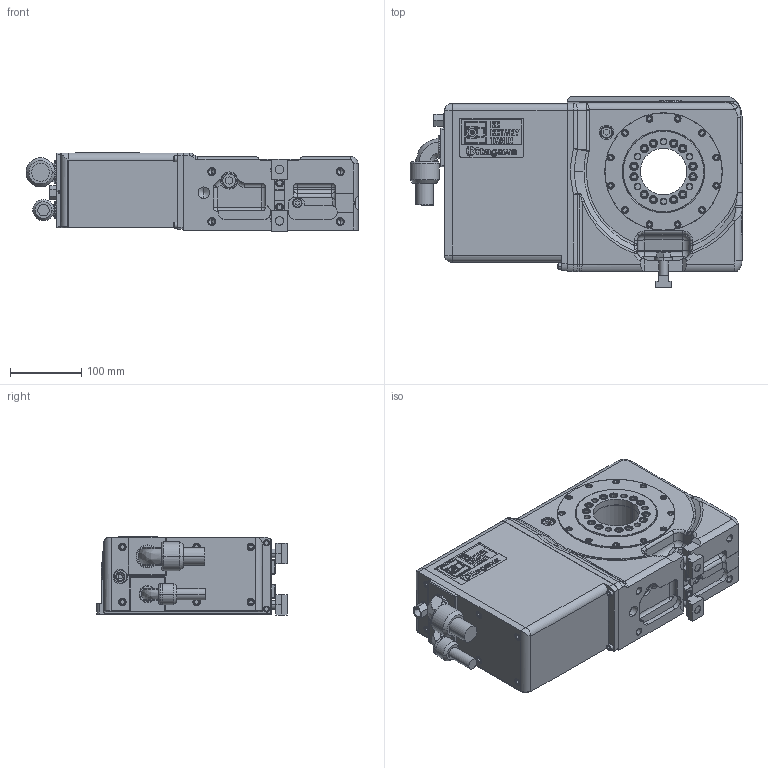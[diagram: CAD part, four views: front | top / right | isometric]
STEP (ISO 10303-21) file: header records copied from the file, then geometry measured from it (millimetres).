
FILE_DESCRIPTION (( 'STEP AP214' ), '1' );
FILE_NAME ('【掲載用】CK160付加軸左勝手.STEP', '2019-10-10T05:06:24', ( '' ), ( '' ), 'SwSTEP 2.0', 'SolidWorks 2017', '' );
FILE_SCHEMA (( 'AUTOMOTIVE_DESIGN' ));
Length unit declared in the file: millimetre
Products named in the file (23): ケーブルN29ZS1650; ケーブルN29ZS2554; SMC KQ2E06-02; モータケースカバー(61E8232700)CKR160LF02; モータケース(61E2715330)CKR160LF02; ガイドブロック(61M4198752); CK160L00僋儈僞僥(61E5013630); 僱乕儉僾儗乕僩丂MB160丂怴儘僑; CKR160　カバー; オイルゲージ 257; CKR160 チェックバルブ AKB01A-01S-×435; 僣僶僣僉僾儔僌GFO M20x1.5; シリンダ(61E8157592)CK160R00; テーブル(61E8145702)CKR160R00; クランプキミタテ(61E473251)CK160D1; ベアリングプッシュプレート(61E8145801)CKR160R00; Tスロットナット１４１２; ベース(61E1136614)CKR160L00_ﾃﾞﾌｫﾙﾄ<ﾏｼﾝ加工>; B パーカ　M12×40; ワッシャ １２(61M4266320)VQ100; 【掲載用】CK160付加軸左勝手; CK160LFホンタイ; キタガワシール
Assembly tree (24 placements, depth 4):
  【掲載用】CK160付加軸左勝手
    CK160LFホンタイ
      CK160L00僋儈僞僥(61E5013630)
        ベース(61E1136614)CKR160L00_ﾃﾞﾌｫﾙﾄ<ﾏｼﾝ加工>
        ベアリングプッシュプレート(61E8145801)CKR160R00
        テーブル(61E8145702)CKR160R00
        シリンダ(61E8157592)CK160R00
        僣僶僣僉僾儔僌GFO M20x1.5
        CKR160 チェックバルブ AKB01A-01S-×435
        オイルゲージ 257
        CKR160　カバー
        僱乕儉僾儗乕僩丂MB160丂怴儘僑
      ガイドブロック(61M4198752)  x2
      モータケース(61E2715330)CKR160LF02
      モータケースカバー(61E8232700)CKR160LF02
      SMC KQ2E06-02
      ケーブルN29ZS2554
      ケーブルN29ZS1650
      キタガワシール
    クランプキミタテ(61E473251)CK160D1  x2
      ワッシャ １２(61M4266320)VQ100
      B パーカ　M12×40
      Tスロットナット１４１２
Bounding box: 465.4 x 267 x 109.35 mm (x, y, z)
Volume: 9209614.3 mm3; surface area: 707780.7 mm2
Topology: 24 solids, 24 shells, 4061 faces, 10415 edges, 6773 vertices
Faces by surface type: plane 2852, cylinder 772, cone 303, bspline 85, torus 33, sphere 16
Entity records: 151802 total; most frequent: CARTESIAN_POINT 32831, ORIENTED_EDGE 20408, DIRECTION 19685, EDGE_CURVE 10204, LINE 8093, VECTOR 8093, VERTEX_POINT 6671, AXIS2_PLACEMENT_3D 5796
